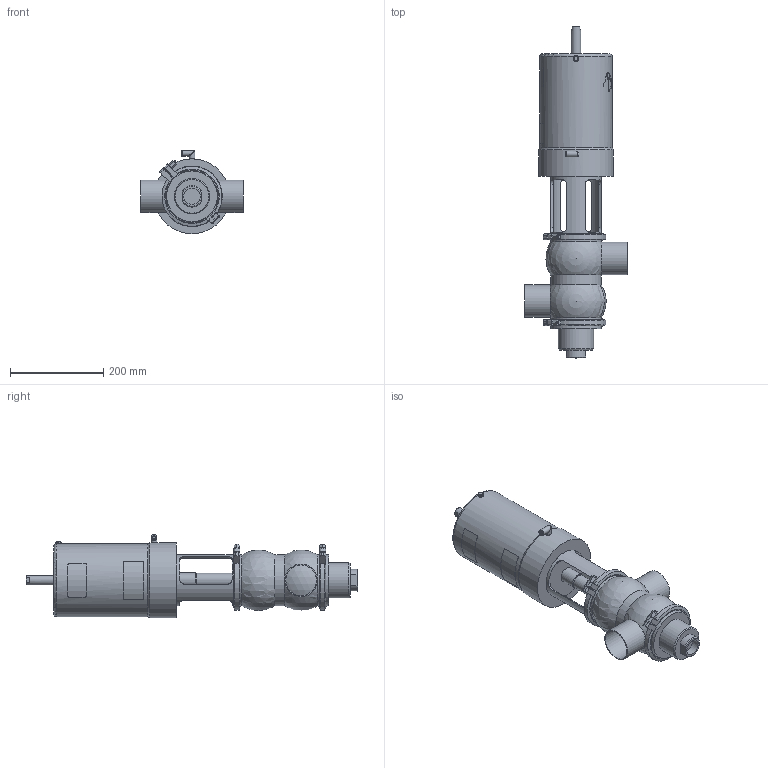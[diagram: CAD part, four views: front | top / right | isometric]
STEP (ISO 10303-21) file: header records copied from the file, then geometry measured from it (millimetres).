
FILE_DESCRIPTION (( 'STEP AP214' ), '1' );
FILE_NAME ('INNOVA S DC-180 W DIN 065_10.251.16.0009.STEP', '2024-08-20T10:24:11', ( '' ), ( '' ), 'SwSTEP 2.0', 'SolidWorks 2023', '' );
FILE_SCHEMA (( 'AUTOMOTIVE_DESIGN' ));
Length unit declared in the file: millimetre
Products named in the file (6): 10.251.15.0002_DN 065; 10.240.15.0001_DN 065; 10.251.15.0011_DIN 065; 10.251.15.0001_DN 065; 10.250.15.0002_Type S T2; INNOVA S DC-180 W DIN 065_10.251.16.0009
Assembly tree (6 placements, depth 2):
  INNOVA S DC-180 W DIN 065_10.251.16.0009
    10.251.15.0001_DN 065
    10.250.15.0002_Type S T2
    10.251.15.0011_DIN 065
    10.240.15.0001_DN 065  x2
    10.251.15.0002_DN 065
Bounding box: 220 x 713 x 179.5 mm (x, y, z)
Volume: 7999378.7 mm3; surface area: 490797.8 mm2
Topology: 6 solids, 6 shells, 421 faces, 1086 edges, 707 vertices
Faces by surface type: plane 202, cylinder 107, bspline 80, cone 27, sphere 4, torus 1
Full cylindrical faces by diameter (mm): 4.2 x2, 5 x1, 6 x1, 6.15 x1, 8 x4, 8.5 x1, 10.5 x2, 12.5 x6, 20 x1, 30.5 x1, 32 x1, 35 x1, 66 x2, 70 x2, 76 x1, 109 x5, 109.1 x1, 121 x4, 156 x1, 161 x1
Entity records: 22137 total; most frequent: CARTESIAN_POINT 12097, ORIENTED_EDGE 1710, DIRECTION 1335, EDGE_CURVE 855, VERTEX_POINT 587, AXIS2_PLACEMENT_3D 512, EDGE_LOOP 454, FACE_OUTER_BOUND 403
